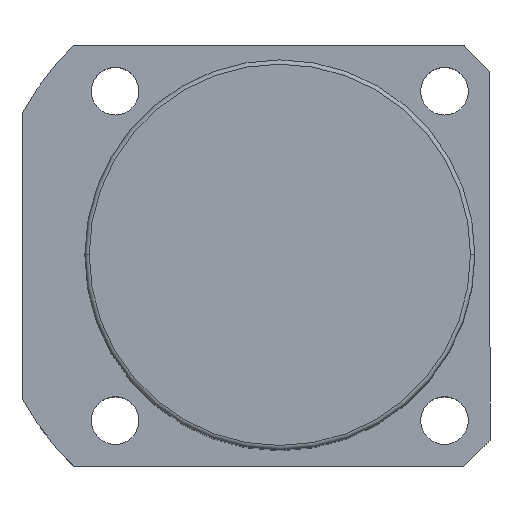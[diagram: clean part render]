
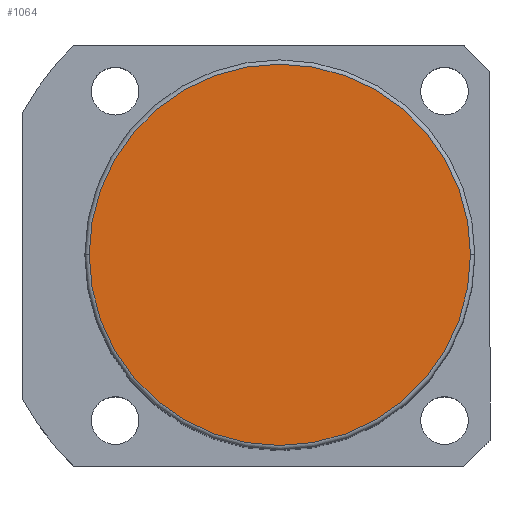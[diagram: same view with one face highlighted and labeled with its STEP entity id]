
A CAD part, top view. The second image highlights one B-rep face of the part: STEP entity #1064.
In plain terms, the highlighted planar face has unit normal (0, 0, 1).
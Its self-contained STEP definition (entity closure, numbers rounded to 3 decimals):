
#15 = CARTESIAN_POINT ( 'NONE',  ( 0., 0., 151.5 ) ) ;
#20 = DIRECTION ( 'NONE',  ( 0., 0., 1. ) ) ;
#83 = AXIS2_PLACEMENT_3D ( 'NONE', #1652, #1095, #1065 ) ;
#133 = CARTESIAN_POINT ( 'NONE',  ( -44., 0., 151.5 ) ) ;
#172 = AXIS2_PLACEMENT_3D ( 'NONE', #15, #20, #1007 ) ;
#373 = DIRECTION ( 'NONE',  ( 1., 0., 0. ) ) ;
#646 = CIRCLE ( 'NONE', #83, 44. ) ;
#667 = ORIENTED_EDGE ( 'NONE', *, *, #1788, .T. ) ;
#669 = CIRCLE ( 'NONE', #1152, 44. ) ;
#799 = DIRECTION ( 'NONE',  ( 0., 0., 1. ) ) ;
#859 = CARTESIAN_POINT ( 'NONE',  ( 44., 0., 151.5 ) ) ;
#1007 = DIRECTION ( 'NONE',  ( 1., 0., 0. ) ) ;
#1025 = VERTEX_POINT ( 'NONE', #133 ) ;
#1064 = ADVANCED_FACE ( 'NONE', ( #1228 ), #1267, .T. ) ;
#1065 = DIRECTION ( 'NONE',  ( 1., 0., 0. ) ) ;
#1095 = DIRECTION ( 'NONE',  ( 0., 0., 1. ) ) ;
#1101 = VERTEX_POINT ( 'NONE', #859 ) ;
#1152 = AXIS2_PLACEMENT_3D ( 'NONE', #1779, #799, #373 ) ;
#1228 = FACE_OUTER_BOUND ( 'NONE', #1469, .T. ) ;
#1267 = PLANE ( 'NONE',  #172 ) ;
#1332 = EDGE_CURVE ( 'NONE', #1025, #1101, #646, .T. ) ;
#1437 = ORIENTED_EDGE ( 'NONE', *, *, #1332, .T. ) ;
#1469 = EDGE_LOOP ( 'NONE', ( #667, #1437 ) ) ;
#1652 = CARTESIAN_POINT ( 'NONE',  ( 0., 0., 151.5 ) ) ;
#1779 = CARTESIAN_POINT ( 'NONE',  ( 0., 0., 151.5 ) ) ;
#1788 = EDGE_CURVE ( 'NONE', #1101, #1025, #669, .T. ) ;
